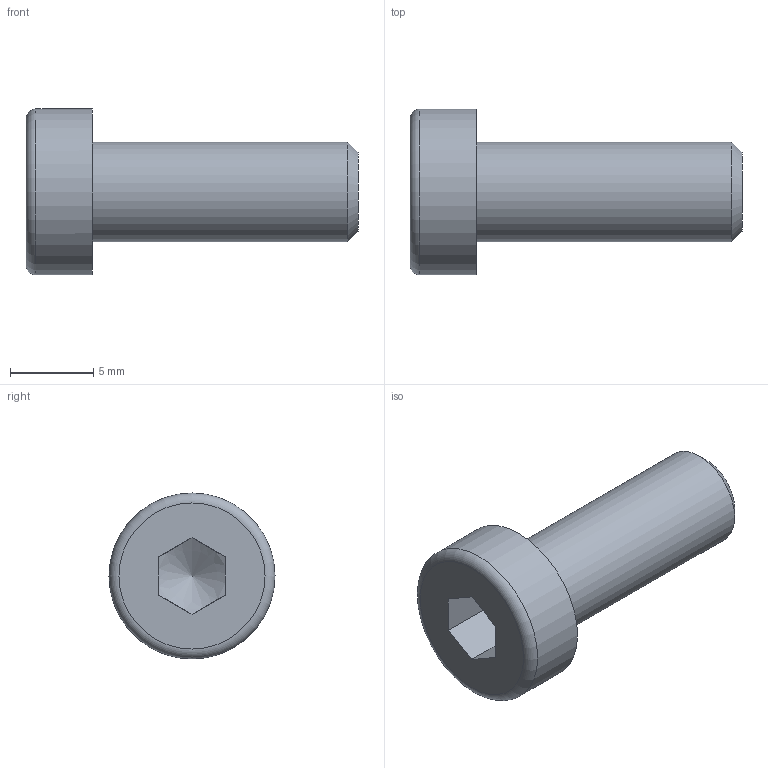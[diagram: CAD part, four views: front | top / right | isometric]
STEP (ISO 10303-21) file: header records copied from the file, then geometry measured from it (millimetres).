
FILE_DESCRIPTION((''),'2;1');
FILE_NAME('C:\Documents and Settings\Administrator\My Documents\Andys Backup Data\ANDY''S INVENTOR\INVENTOR LIBRARIES\MINITEC INVENTOR LIBRARIES\FASTENING ELEMENTS\SCREWS CAP\step\21.1238 M6X16.stp','2010-06-30T08:45:37',('Administrator'),(''),'Autodesk Inventor 2009','Autodesk Inventor 2009','');
FILE_SCHEMA(('AUTOMOTIVE_DESIGN { 1 0 10303 214 1 1 1 1 }'));
Length unit declared in the file: millimetre
Products named in the file (1): 21.1238  M6 x 16
Bounding box: 20 x 10 x 10 mm (x, y, z)
Volume: 712.1 mm3; surface area: 614.2 mm2
Topology: 1 solids, 1 shells, 14 faces, 30 edges, 19 vertices
Faces by surface type: plane 9, cone 2, cylinder 2, torus 1
Full cylindrical faces by diameter (mm): 6 x1, 10 x1
Entity records: 362 total; most frequent: CARTESIAN_POINT 69, DIRECTION 54, ORIENTED_EDGE 48, EDGE_CURVE 24, AXIS2_PLACEMENT_3D 21, EDGE_LOOP 20, VERTEX_POINT 18, FACE_OUTER_BOUND 14
